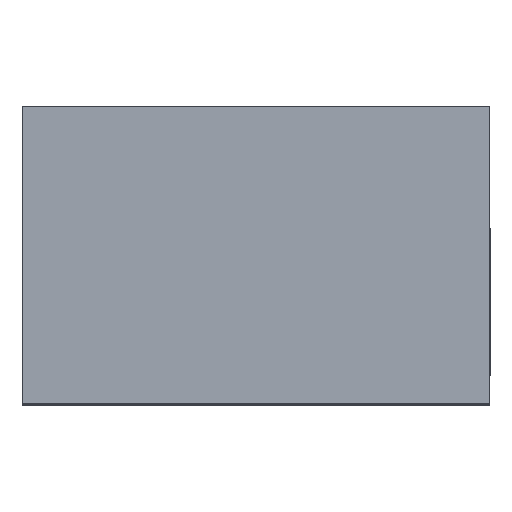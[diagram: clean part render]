
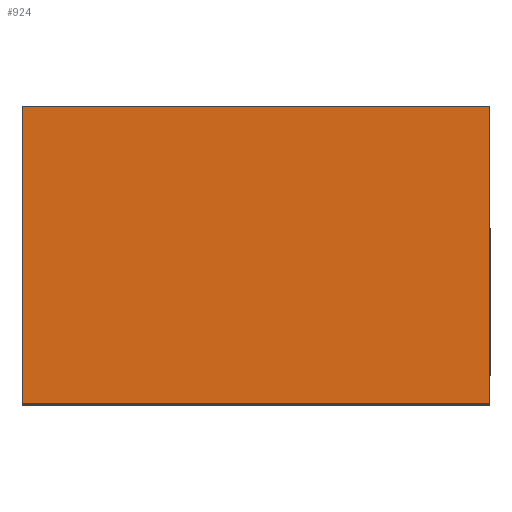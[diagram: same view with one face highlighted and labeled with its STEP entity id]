
A CAD part, top view. The second image highlights one B-rep face of the part: STEP entity #924.
In plain terms, the highlighted planar face has unit normal (0, 0, 1).
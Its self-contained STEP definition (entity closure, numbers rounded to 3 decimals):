
#29 = DIRECTION ( 'NONE',  ( 1., 0., 0. ) ) ;
#43 = CARTESIAN_POINT ( 'NONE',  ( 0., 0., 19. ) ) ;
#68 = VECTOR ( 'NONE', #523, 1000. ) ;
#138 = CARTESIAN_POINT ( 'NONE',  ( 12.6, 8., 19. ) ) ;
#147 = LINE ( 'NONE', #138, #954 ) ;
#208 = DIRECTION ( 'NONE',  ( 0., -1., 0. ) ) ;
#229 = ORIENTED_EDGE ( 'NONE', *, *, #833, .T. ) ;
#283 = LINE ( 'NONE', #827, #68 ) ;
#294 = EDGE_CURVE ( 'NONE', #829, #591, #283, .T. ) ;
#318 = PLANE ( 'NONE',  #513 ) ;
#450 = VECTOR ( 'NONE', #29, 1000. ) ;
#477 = LINE ( 'NONE', #685, #450 ) ;
#478 = VERTEX_POINT ( 'NONE', #887 ) ;
#486 = ORIENTED_EDGE ( 'NONE', *, *, #731, .F. ) ;
#491 = DIRECTION ( 'NONE',  ( -1., 0., 0. ) ) ;
#501 = CARTESIAN_POINT ( 'NONE',  ( 12.6, 0., 19. ) ) ;
#513 = AXIS2_PLACEMENT_3D ( 'NONE', #1015, #944, #491 ) ;
#521 = EDGE_CURVE ( 'NONE', #478, #591, #147, .T. ) ;
#523 = DIRECTION ( 'NONE',  ( 1., 0., 0. ) ) ;
#539 = FACE_OUTER_BOUND ( 'NONE', #624, .T. ) ;
#589 = LINE ( 'NONE', #766, #795 ) ;
#591 = VERTEX_POINT ( 'NONE', #501 ) ;
#624 = EDGE_LOOP ( 'NONE', ( #912, #765, #486, #229 ) ) ;
#626 = DIRECTION ( 'NONE',  ( 0., -1., 0. ) ) ;
#685 = CARTESIAN_POINT ( 'NONE',  ( 0., 8., 19. ) ) ;
#731 = EDGE_CURVE ( 'NONE', #1024, #478, #477, .T. ) ;
#765 = ORIENTED_EDGE ( 'NONE', *, *, #521, .F. ) ;
#766 = CARTESIAN_POINT ( 'NONE',  ( 0., 8., 19. ) ) ;
#795 = VECTOR ( 'NONE', #208, 1000. ) ;
#827 = CARTESIAN_POINT ( 'NONE',  ( 0., 0., 19. ) ) ;
#829 = VERTEX_POINT ( 'NONE', #43 ) ;
#833 = EDGE_CURVE ( 'NONE', #1024, #829, #589, .T. ) ;
#835 = CARTESIAN_POINT ( 'NONE',  ( 0., 8., 19. ) ) ;
#887 = CARTESIAN_POINT ( 'NONE',  ( 12.6, 8., 19. ) ) ;
#912 = ORIENTED_EDGE ( 'NONE', *, *, #294, .T. ) ;
#924 = ADVANCED_FACE ( 'NONE', ( #539 ), #318, .F. ) ;
#944 = DIRECTION ( 'NONE',  ( 0., 0., -1. ) ) ;
#954 = VECTOR ( 'NONE', #626, 1000. ) ;
#1015 = CARTESIAN_POINT ( 'NONE',  ( 0., 8., 19. ) ) ;
#1024 = VERTEX_POINT ( 'NONE', #835 ) ;
